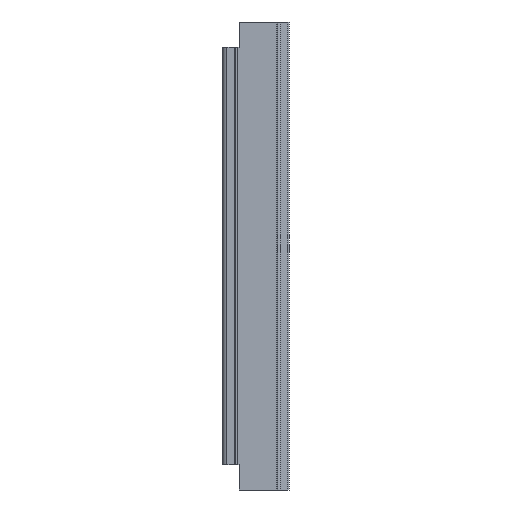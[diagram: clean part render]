
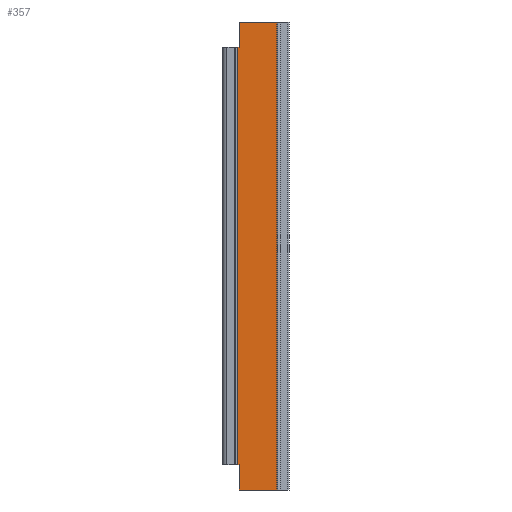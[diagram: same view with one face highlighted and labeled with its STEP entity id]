
A CAD part, left-side view. The second image highlights one B-rep face of the part: STEP entity #357.
In plain terms, the highlighted planar face has unit normal (-1, 0, 0).
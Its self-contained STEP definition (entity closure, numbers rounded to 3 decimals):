
#20 = EDGE_CURVE ( 'NONE', #1068, #1106, #448, .T. ) ;
#44 = EDGE_CURVE ( 'NONE', #1060, #1066, #489, .T. ) ;
#55 = EDGE_CURVE ( 'NONE', #1066, #1109, #509, .T. ) ;
#60 = EDGE_CURVE ( 'NONE', #1106, #1056, #504, .T. ) ;
#65 = EDGE_CURVE ( 'NONE', #1056, #1065, #523, .T. ) ;
#70 = EDGE_CURVE ( 'NONE', #1060, #1065, #536, .T. ) ;
#92 = EDGE_CURVE ( 'NONE', #1067, #1068, #576, .T. ) ;
#103 = EDGE_CURVE ( 'NONE', #1109, #1067, #598, .T. ) ;
#145 = AXIS2_PLACEMENT_3D ( 'NONE', #824, #830, #831 ) ;
#189 = ORIENTED_EDGE ( 'NONE', *, *, #92, .T. ) ;
#190 = ORIENTED_EDGE ( 'NONE', *, *, #103, .T. ) ;
#191 = ORIENTED_EDGE ( 'NONE', *, *, #55, .T. ) ;
#192 = ORIENTED_EDGE ( 'NONE', *, *, #44, .T. ) ;
#232 = ORIENTED_EDGE ( 'NONE', *, *, #70, .F. ) ;
#233 = ORIENTED_EDGE ( 'NONE', *, *, #65, .T. ) ;
#234 = ORIENTED_EDGE ( 'NONE', *, *, #60, .T. ) ;
#235 = ORIENTED_EDGE ( 'NONE', *, *, #20, .T. ) ;
#357 = ADVANCED_FACE ( 'NONE', ( #666 ), #821, .F. ) ;
#439 = EDGE_LOOP ( 'NONE', ( #192, #191, #190, #189, #235, #234, #233, #232 ) ) ;
#447 = VECTOR ( 'NONE', #1110, 1000. ) ;
#448 = LINE ( 'NONE', #1045, #447 ) ;
#487 = VECTOR ( 'NONE', #1164, 1000. ) ;
#489 = LINE ( 'NONE', #1158, #487 ) ;
#504 = LINE ( 'NONE', #1197, #518 ) ;
#509 = LINE ( 'NONE', #1188, #510 ) ;
#510 = VECTOR ( 'NONE', #1189, 1000. ) ;
#518 = VECTOR ( 'NONE', #1200, 1000. ) ;
#519 = VECTOR ( 'NONE', #1211, 1000. ) ;
#523 = LINE ( 'NONE', #1210, #519 ) ;
#536 = LINE ( 'NONE', #1220, #537 ) ;
#537 = VECTOR ( 'NONE', #1221, 1000. ) ;
#576 = LINE ( 'NONE', #1268, #577 ) ;
#577 = VECTOR ( 'NONE', #1269, 1000. ) ;
#598 = LINE ( 'NONE', #1291, #599 ) ;
#599 = VECTOR ( 'NONE', #1292, 1000. ) ;
#666 = FACE_OUTER_BOUND ( 'NONE', #439, .T. ) ;
#821 = PLANE ( 'NONE',  #145 ) ;
#824 = CARTESIAN_POINT ( 'NONE',  ( -2.8, -14.555, 678. ) ) ;
#830 = DIRECTION ( 'NONE',  ( 1., 0., 0. ) ) ;
#831 = DIRECTION ( 'NONE',  ( 0., 1., 0. ) ) ;
#940 = CARTESIAN_POINT ( 'NONE',  ( -2.8, -72.063, 0. ) ) ;
#944 = CARTESIAN_POINT ( 'NONE',  ( -2.8, -17.7, 678. ) ) ;
#949 = CARTESIAN_POINT ( 'NONE',  ( -2.8, -72.063, 678. ) ) ;
#950 = CARTESIAN_POINT ( 'NONE',  ( -2.8, -17.7, 641.5 ) ) ;
#951 = CARTESIAN_POINT ( 'NONE',  ( -2.8, -14.928, 36.5 ) ) ;
#952 = CARTESIAN_POINT ( 'NONE',  ( -2.8, -17.7, 36.5 ) ) ;
#990 = CARTESIAN_POINT ( 'NONE',  ( -2.8, -17.7, 0. ) ) ;
#993 = CARTESIAN_POINT ( 'NONE',  ( -2.8, -14.928, 641.5 ) ) ;
#1045 = CARTESIAN_POINT ( 'NONE',  ( -2.8, -17.7, 678. ) ) ;
#1056 = VERTEX_POINT ( 'NONE', #940 ) ;
#1060 = VERTEX_POINT ( 'NONE', #944 ) ;
#1065 = VERTEX_POINT ( 'NONE', #949 ) ;
#1066 = VERTEX_POINT ( 'NONE', #950 ) ;
#1067 = VERTEX_POINT ( 'NONE', #951 ) ;
#1068 = VERTEX_POINT ( 'NONE', #952 ) ;
#1106 = VERTEX_POINT ( 'NONE', #990 ) ;
#1109 = VERTEX_POINT ( 'NONE', #993 ) ;
#1110 = DIRECTION ( 'NONE',  ( 0., 0., -1. ) ) ;
#1158 = CARTESIAN_POINT ( 'NONE',  ( -2.8, -17.7, 678. ) ) ;
#1164 = DIRECTION ( 'NONE',  ( 0., 0., -1. ) ) ;
#1188 = CARTESIAN_POINT ( 'NONE',  ( -2.8, -14.555, 641.5 ) ) ;
#1189 = DIRECTION ( 'NONE',  ( 0., 1., 0. ) ) ;
#1197 = CARTESIAN_POINT ( 'NONE',  ( -2.8, -14.555, 0. ) ) ;
#1200 = DIRECTION ( 'NONE',  ( 0., -1., 0. ) ) ;
#1210 = CARTESIAN_POINT ( 'NONE',  ( -2.8, -72.063, 678. ) ) ;
#1211 = DIRECTION ( 'NONE',  ( 0., 0., 1. ) ) ;
#1220 = CARTESIAN_POINT ( 'NONE',  ( -2.8, -14.555, 678. ) ) ;
#1221 = DIRECTION ( 'NONE',  ( 0., -1., 0. ) ) ;
#1268 = CARTESIAN_POINT ( 'NONE',  ( -2.8, -14.555, 36.5 ) ) ;
#1269 = DIRECTION ( 'NONE',  ( 0., -1., 0. ) ) ;
#1291 = CARTESIAN_POINT ( 'NONE',  ( -2.8, -14.928, 678. ) ) ;
#1292 = DIRECTION ( 'NONE',  ( 0., 0., -1. ) ) ;
